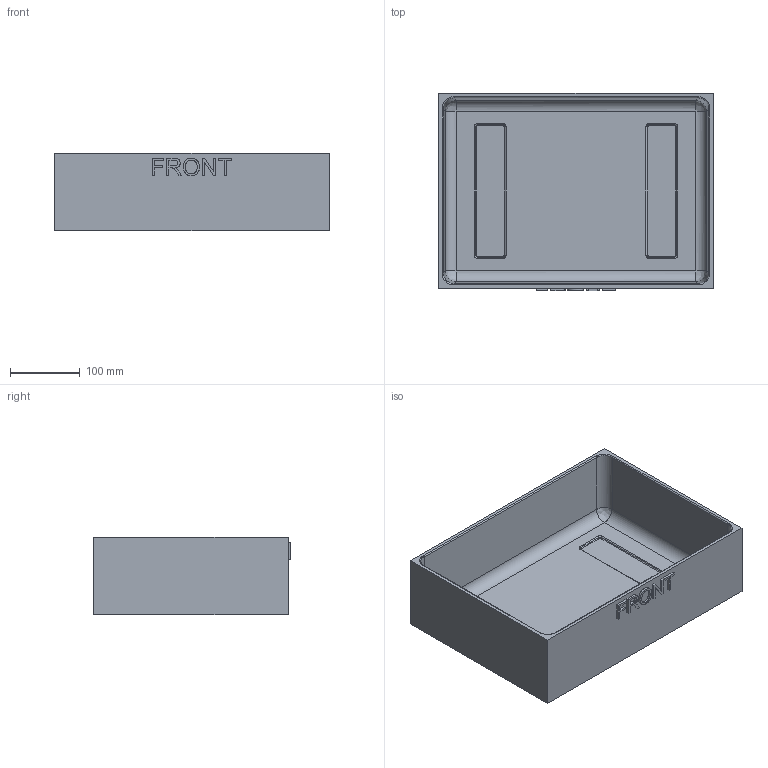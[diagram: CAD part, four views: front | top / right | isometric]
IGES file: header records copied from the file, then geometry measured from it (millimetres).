
Start section: Comment
Global section: file name: 2200-base_internal_tub.igs; native system:  By UGS Corp.; preprocessor: XPlus GENERIC/IGES 3.0; author: Author; organization: Title; date: 20100512.153836; units: millimetre
Bounding box: 393.7 x 282.57 x 111.12 mm (x, y, z)
Surface area: 490713.7 mm2 (no closed solid volume)
Topology: 0 solids, 0 shells, 113 faces, 718 edges, 714 vertices
Faces by surface type: bspline 113
